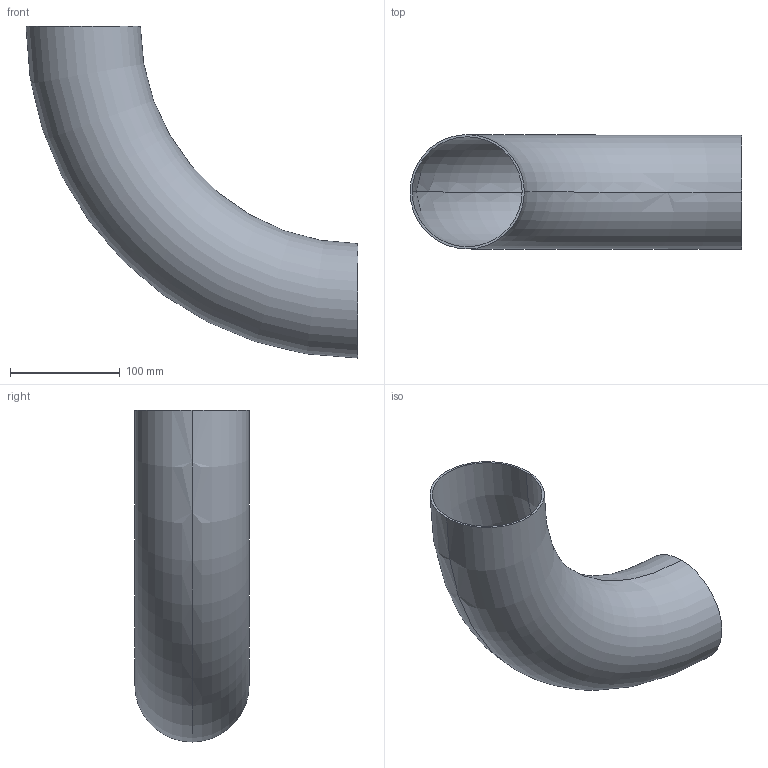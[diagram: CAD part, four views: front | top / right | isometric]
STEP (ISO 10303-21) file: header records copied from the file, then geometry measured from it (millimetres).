
FILE_DESCRIPTION (( 'STEP AP203' ), '1' );
FILE_NAME ('3D_R1655_104x2_17362300.STEP', '2024-08-05T09:19:50', ( '' ), ( '' ), 'SwSTEP 2.0', 'SolidWorks 2024', '' );
FILE_SCHEMA (( 'CONFIG_CONTROL_DESIGN' ));
Length unit declared in the file: millimetre
Products named in the file (1): 3D_R1655_104x2_17362300
Bounding box: 302 x 104 x 302 mm (x, y, z)
Volume: 251674.9 mm3; surface area: 252956.7 mm2
Topology: 1 solids, 1 shells, 6 faces, 12 edges, 8 vertices
Faces by surface type: torus 4, plane 2
Entity records: 249 total; most frequent: DIRECTION 38, CARTESIAN_POINT 27, ORIENTED_EDGE 24, AXIS2_PLACEMENT_3D 19, EDGE_CURVE 12, CIRCLE 12, EDGE_LOOP 8, VERTEX_POINT 8
